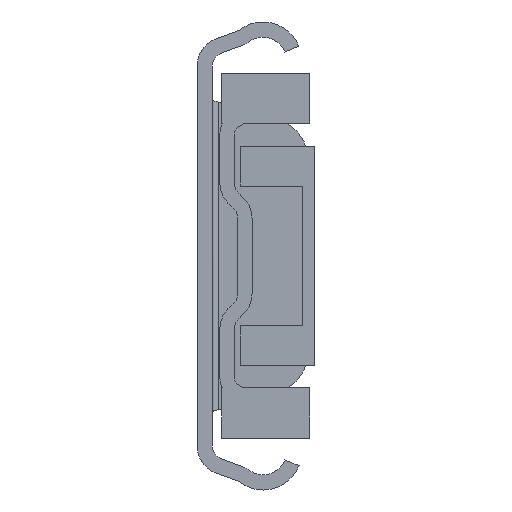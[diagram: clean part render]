
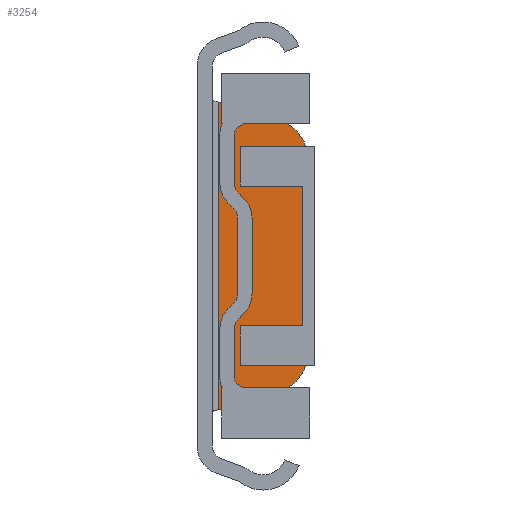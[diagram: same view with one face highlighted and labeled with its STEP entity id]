
A CAD part, front view. The second image highlights one B-rep face of the part: STEP entity #3254.
In plain terms, the highlighted planar face has unit normal (0, -1, 0).
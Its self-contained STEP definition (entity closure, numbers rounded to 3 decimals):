
#127=CIRCLE('',#3893,8.);
#128=CIRCLE('',#3894,8.);
#908=ORIENTED_EDGE('',*,*,#1524,.F.);
#909=ORIENTED_EDGE('',*,*,#1525,.F.);
#910=ORIENTED_EDGE('',*,*,#1526,.F.);
#911=ORIENTED_EDGE('',*,*,#1527,.F.);
#912=ORIENTED_EDGE('',*,*,#1528,.F.);
#913=ORIENTED_EDGE('',*,*,#1529,.F.);
#1524=EDGE_CURVE('',#1889,#1890,#2231,.T.);
#1525=EDGE_CURVE('',#1891,#1889,#127,.F.);
#1526=EDGE_CURVE('',#1892,#1891,#2232,.T.);
#1527=EDGE_CURVE('',#1893,#1892,#128,.F.);
#1528=EDGE_CURVE('',#1894,#1893,#2233,.T.);
#1529=EDGE_CURVE('',#1890,#1894,#2234,.T.);
#1889=VERTEX_POINT('',#5612);
#1890=VERTEX_POINT('',#5613);
#1891=VERTEX_POINT('',#5615);
#1892=VERTEX_POINT('',#5617);
#1893=VERTEX_POINT('',#5619);
#1894=VERTEX_POINT('',#5621);
#2231=LINE('',#5611,#2562);
#2232=LINE('',#5616,#2563);
#2233=LINE('',#5620,#2564);
#2234=LINE('',#5622,#2565);
#2562=VECTOR('',#4645,1000.);
#2563=VECTOR('',#4648,1000.);
#2564=VECTOR('',#4651,1000.);
#2565=VECTOR('',#4652,1000.);
#2781=EDGE_LOOP('',(#908,#909,#910,#911,#912,#913));
#2982=FACE_BOUND('',#2781,.T.);
#3119=PLANE('',#3892);
#3254=ADVANCED_FACE('',(#2982),#3119,.T.);
#3892=AXIS2_PLACEMENT_3D('',#5610,#4643,#4644);
#3893=AXIS2_PLACEMENT_3D('',#5614,#4646,#4647);
#3894=AXIS2_PLACEMENT_3D('',#5618,#4649,#4650);
#4643=DIRECTION('',(0.,-1.,0.));
#4644=DIRECTION('',(0.,0.,-1.));
#4645=DIRECTION('',(-0.966,0.,-0.259));
#4646=DIRECTION('',(0.,-1.,0.));
#4647=DIRECTION('',(0.,0.,-1.));
#4648=DIRECTION('',(0.,0.,-1.));
#4649=DIRECTION('',(0.,-1.,0.));
#4650=DIRECTION('',(0.,0.,-1.));
#4651=DIRECTION('',(0.966,0.,-0.259));
#4652=DIRECTION('',(0.,0.,1.));
#5610=CARTESIAN_POINT('',(12.9,302.3,14.965));
#5611=CARTESIAN_POINT('',(22.316,302.3,-20.174));
#5612=CARTESIAN_POINT('',(12.471,302.3,-22.812));
#5613=CARTESIAN_POINT('',(3.5,302.3,-25.216));
#5614=CARTESIAN_POINT('',(10.4,302.3,-15.085));
#5615=CARTESIAN_POINT('',(18.4,302.3,-15.085));
#5616=CARTESIAN_POINT('',(18.4,302.3,14.965));
#5617=CARTESIAN_POINT('',(18.4,302.3,15.085));
#5618=CARTESIAN_POINT('',(10.4,302.3,15.085));
#5619=CARTESIAN_POINT('',(12.471,302.3,22.812));
#5620=CARTESIAN_POINT('',(14.833,302.3,22.179));
#5621=CARTESIAN_POINT('',(3.5,302.3,25.216));
#5622=CARTESIAN_POINT('',(3.5,302.3,-25.766));
